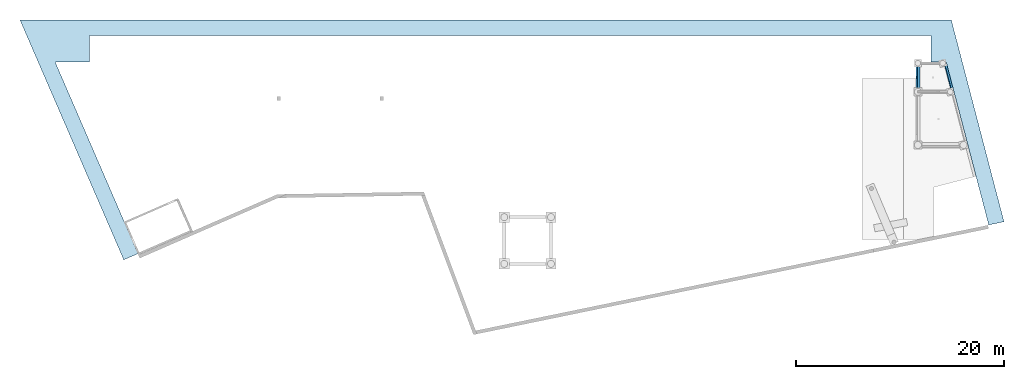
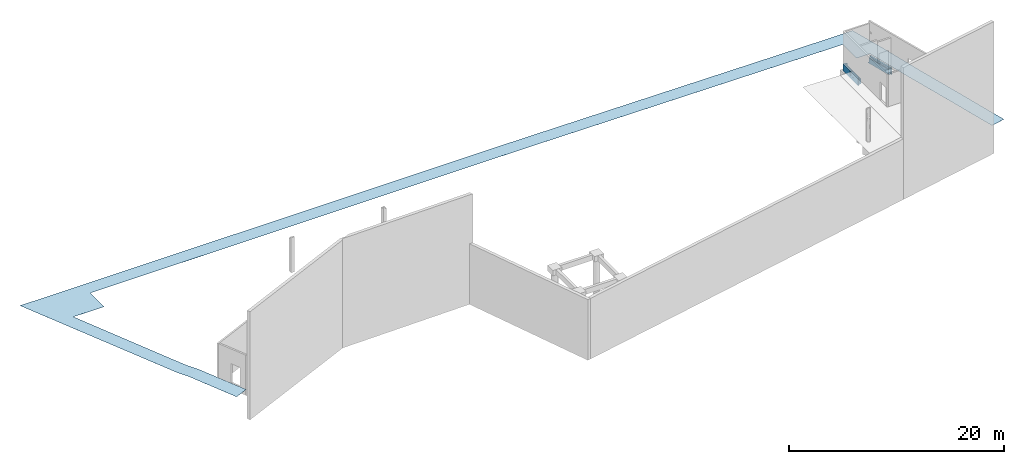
# One storey, part 4 of 5: 2 beams, 1 slab.
"""IFC2X3 building model written with IfcOpenShell, lengths in centimetres."""

from ifc_helpers import new_model, entity, si_unit, converted_unit, derived_unit, direction, frame, origin, place, context, subcontext, project, spatial, faceted_brep, material, material_list, type_object, element, save


model = new_model("IFC2X3")

# Units and contexts
model_context = context("Model", 3, precision=0.001, world=origin(), true_north=direction((6.12303176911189e-17, 1.0)))
body_context = subcontext(model_context, "Body", "Model", "MODEL_VIEW")
ifc_project = project(units=[si_unit("LENGTHUNIT", "METRE", prefix="CENTI"), si_unit("AREAUNIT", "SQUARE_METRE"), si_unit("VOLUMEUNIT", "CUBIC_METRE"), converted_unit("PLANEANGLEUNIT", "DEGREE", entity("IfcRatioMeasure", 0.0174532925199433), si_unit("PLANEANGLEUNIT", "RADIAN"), dimensions=[0, 0, 0, 0, 0, 0, 0]), si_unit("MASSUNIT", "GRAM", prefix="KILO"), derived_unit("MASSDENSITYUNIT", [(si_unit("MASSUNIT", "GRAM", prefix="KILO"), 1), (si_unit("LENGTHUNIT", "METRE"), -3)]), si_unit("TIMEUNIT", "SECOND"), si_unit("FREQUENCYUNIT", "HERTZ"), si_unit("THERMODYNAMICTEMPERATUREUNIT", "DEGREE_CELSIUS"), derived_unit("THERMALTRANSMITTANCEUNIT", [(si_unit("MASSUNIT", "GRAM", prefix="KILO"), 1), (si_unit("THERMODYNAMICTEMPERATUREUNIT", "KELVIN"), -1), (si_unit("TIMEUNIT", "SECOND"), -3)]), derived_unit("VOLUMETRICFLOWRATEUNIT", [(si_unit("LENGTHUNIT", "METRE"), 3), (si_unit("TIMEUNIT", "SECOND"), -1)]), si_unit("ELECTRICCURRENTUNIT", "AMPERE"), si_unit("ELECTRICVOLTAGEUNIT", "VOLT"), si_unit("POWERUNIT", "WATT"), si_unit("FORCEUNIT", "NEWTON"), si_unit("ILLUMINANCEUNIT", "LUX"), si_unit("LUMINOUSFLUXUNIT", "LUMEN"), si_unit("LUMINOUSINTENSITYUNIT", "CANDELA"), derived_unit("USERDEFINED", [(si_unit("MASSUNIT", "GRAM", prefix="KILO"), -1), (si_unit("LENGTHUNIT", "METRE"), -2), (si_unit("TIMEUNIT", "SECOND"), 3), (si_unit("LUMINOUSFLUXUNIT", "LUMEN"), 1)]), derived_unit("LINEARVELOCITYUNIT", [(si_unit("LENGTHUNIT", "METRE"), 1), (si_unit("TIMEUNIT", "SECOND"), -1)]), si_unit("PRESSUREUNIT", "PASCAL"), derived_unit("USERDEFINED", [(si_unit("LENGTHUNIT", "METRE"), -2), (si_unit("MASSUNIT", "GRAM", prefix="KILO"), 1), (si_unit("TIMEUNIT", "SECOND"), -2)])], contexts=[model_context])

# Site, building, storey
site_placement = place(None, origin())
site = spatial("IfcSite", under=ifc_project, at=site_placement, Name="Default", CompositionType="ELEMENT")
building_placement = place(site_placement, origin())
building = spatial("IfcBuilding", under=site, at=building_placement, Name="CAGE 03", CompositionType="ELEMENT")
storey_placement = place(building_placement, frame((0.0, 0.0, -50.0)))
storey = spatial("IfcBuildingStorey", under=building, at=storey_placement, Name="+3.50", CompositionType="ELEMENT", Elevation=-50.0000000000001)

# Beams
ifc_material_1 = material(Name="Béton, C25/30")
ifc_material_2 = material(Name="<Unnamed>")
ifc_material_list = material_list([ifc_material_1, ifc_material_2])
beam_type_1 = type_object("IfcBeamType", Name="40x80ht", PredefinedType="BEAM", material=ifc_material_list)
beam_1_placement = place(storey_placement, frame((11028.3658201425, 4752.66066607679, -85.0), z_axis=(0.0, 0.0, 1.0), x_axis=(0.0, 1.0, 0.0)))
element("IfcBeam", 1, at=beam_1_placement, inside=storey, type_object=beam_type_1, material=ifc_material_1, Name="BBGO-Poutre rect:40x80ht", ObjectType="BBGO-Poutre rect:40x80ht", context=body_context, shape_type="Brep", body=[
    faceted_brep([(284.499999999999, 0.0, 68.0), (284.499999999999, 0.0, 80.0), (284.499999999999, -18.0, 80.0), (284.499999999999, -27.4999999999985, 80.0), (284.499999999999, -27.4999999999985, 68.0), (284.499999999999, -27.4999999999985, 8.0), (284.499999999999, -40.0, 8.0), (284.499999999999, -40.0, 0.0), (284.499999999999, 0.0, 0.0), (266.500000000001, -40.0, 80.0), (266.500000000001, -40.0, 60.0), (275.500000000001, -40.0, 80.0), (275.500000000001, -40.0, 8.0), (102.480863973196, -40.0, 38.0856866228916), (102.214442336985, -40.0, 39.4250786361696), (101.948020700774, -40.0, 40.7644706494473), (101.189316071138, -40.0, 41.8999523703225), (100.430611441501, -40.0, 43.0354340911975), (99.2951297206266, -40.0, 43.7941387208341), (98.1596479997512, -40.0, 44.5528433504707), (96.8202559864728, -40.0, 44.8192649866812), (95.4808639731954, -40.0, 45.0856866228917), (15.0, -40.0, 60.0), (94.1414719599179, -40.0, 44.8192649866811), (92.8020799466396, -40.0, 44.5528433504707), (91.6665982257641, -40.0, 43.7941387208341), (90.5311165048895, -40.0, 43.0354340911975), (89.7724118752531, -40.0, 41.8999523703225), (89.0137072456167, -40.0, 40.7644706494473), (88.8267822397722, -40.0, 39.8247351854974), (88.4808639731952, -40.0, 38.0856866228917), (15.0, -40.0, 0.0), (88.747285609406, -40.0, 36.7462946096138), (89.0137072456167, -40.0, 35.4069025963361), (89.7724118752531, -40.0, 34.2714208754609), (90.5311165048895, -40.0, 33.1359391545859), (91.6665982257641, -40.0, 32.3772345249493), (92.8020799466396, -40.0, 31.6185298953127), (94.141471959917, -40.0, 31.3521082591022), (95.4808639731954, -40.0, 31.0856866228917), (96.8202559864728, -40.0, 31.3521082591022), (98.1596479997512, -40.0, 31.6185298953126), (102.214442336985, -40.0, 36.7462946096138), (99.2951297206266, -40.0, 32.3772345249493), (100.430611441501, -40.0, 33.1359391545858), (101.189316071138, -40.0, 34.2714208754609), (101.948020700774, -40.0, 35.406902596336), (15.0, -9.0, 0.0), (0.0, -9.0, 0.0), (0.0, 0.0, 0.0), (147.0, 0.0, 28.0), (129.0, 0.0, 28.0), (147.0, 0.0, 68.0), (147.0, 0.0, 80.0), (95.4808639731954, 0.0, 31.0856866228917), (94.1414719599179, 0.0, 31.3521082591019), (92.8020799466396, 0.0, 31.6185298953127), (91.6665982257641, 0.0, 32.3772345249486), (90.5311165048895, 0.0, 33.1359391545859), (89.7724118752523, 0.0, 34.2714208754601), (89.0137072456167, 0.0, 35.4069025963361), (88.8267822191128, 0.0, 36.3466381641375), (88.4808639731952, 0.0, 38.0856866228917), (0.0, 0.0, 80.0), (88.7472856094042, 0.0, 39.4250786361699), (89.0137072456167, 0.0, 40.7644706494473), (89.7724118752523, 0.0, 41.8999523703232), (90.5311165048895, 0.0, 43.0354340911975), (91.6665982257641, 0.0, 43.7941387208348), (92.8020799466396, 0.0, 44.5528433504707), (129.0, 0.0, 80.0), (101.948020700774, 0.0, 40.7644706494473), (101.189316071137, 0.0, 41.8999523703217), (100.430611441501, 0.0, 43.0354340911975), (99.2951297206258, 0.0, 43.7941387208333), (94.1414719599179, 0.0, 44.8192649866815), (95.4808639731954, 0.0, 45.0856866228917), (96.8202559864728, 0.0, 44.8192649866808), (98.1596479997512, 0.0, 44.5528433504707), (96.8202559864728, 0.0, 31.3521082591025), (98.1596479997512, 0.0, 31.6185298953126), (99.2951297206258, 0.0, 32.37723452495), (100.430611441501, 0.0, 33.1359391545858), (101.189316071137, 0.0, 34.2714208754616), (101.948020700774, 0.0, 35.406902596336), (102.214442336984, 0.0, 36.7462946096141), (102.480863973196, 0.0, 38.0856866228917), (102.134945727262, 0.0, 39.8247350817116), (147.0, -9.0, 80.0), (129.0, -9.0, 80.0), (0.0, -9.0, 80.0), (15.0, -9.0, 80.0), (15.0, -18.0, 80.0), (266.500000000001, -18.0, 80.0), (275.500000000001, -27.4999999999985, 80.0), (15.0, -18.0, 60.0), (266.500000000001, -18.0, 60.0), (129.0, -9.0, 28.0), (147.0, -9.0, 28.0), (275.500000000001, -27.4999999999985, 8.0)], [[[0, 1, 2, 3, 4, 5, 6, 7, 8]], [[9, 10, 11]], [[10, 12, 11]], [[13, 12, 10]], [[10, 14, 13]], [[10, 15, 14]], [[10, 16, 15]], [[10, 17, 16]], [[10, 18, 17]], [[10, 19, 18]], [[10, 20, 19]], [[10, 21, 20]], [[22, 21, 10]], [[22, 23, 21]], [[22, 24, 23]], [[22, 25, 24]], [[22, 26, 25]], [[22, 27, 26]], [[22, 28, 27]], [[22, 29, 28]], [[22, 30, 29]], [[22, 31, 30]], [[31, 32, 30]], [[31, 33, 32]], [[31, 34, 33]], [[31, 35, 34]], [[31, 36, 35]], [[31, 37, 36]], [[31, 38, 37]], [[31, 39, 38]], [[31, 40, 39]], [[31, 41, 40]], [[31, 7, 41]], [[7, 6, 12]], [[41, 7, 12]], [[12, 13, 42]], [[12, 43, 41]], [[12, 44, 43]], [[12, 45, 44]], [[12, 46, 45]], [[12, 42, 46]], [[31, 47, 48, 49, 8, 7]], [[50, 8, 49]], [[50, 49, 51]], [[0, 8, 50]], [[0, 50, 52]], [[53, 0, 52]], [[0, 53, 1]], [[54, 51, 49]], [[49, 55, 54]], [[49, 56, 55]], [[49, 57, 56]], [[49, 58, 57]], [[49, 59, 58]], [[49, 60, 59]], [[49, 61, 60]], [[49, 62, 61]], [[63, 62, 49]], [[63, 64, 62]], [[63, 65, 64]], [[63, 66, 65]], [[63, 67, 66]], [[63, 68, 67]], [[63, 69, 68]], [[70, 69, 63]], [[71, 70, 51]], [[70, 71, 72]], [[70, 72, 73]], [[70, 73, 74]], [[70, 75, 69]], [[70, 76, 75]], [[70, 77, 76]], [[70, 78, 77]], [[70, 74, 78]], [[51, 54, 79]], [[51, 79, 80]], [[51, 80, 81]], [[51, 81, 82]], [[51, 82, 83]], [[51, 83, 84]], [[51, 84, 85]], [[51, 85, 86]], [[51, 86, 87]], [[51, 87, 71]], [[1, 53, 88, 89, 70, 63, 90, 91, 92, 93, 9, 11, 94, 3, 2]], [[95, 22, 10, 96]], [[92, 95, 96, 93]], [[91, 47, 31, 22, 95, 92]], [[90, 63, 49, 48]], [[48, 47, 91, 90]], [[70, 89, 97, 51]], [[51, 97, 98, 50]], [[9, 93, 96, 10]], [[50, 98, 88, 53, 52]], [[88, 98, 97, 89]], [[44, 45, 46, 84, 83, 82]], [[43, 44, 82, 81, 80, 41]], [[38, 39, 54, 55, 56, 37]], [[40, 41, 80, 79, 54, 39]], [[46, 42, 13, 86, 85, 84]], [[36, 37, 56, 57, 58, 35]], [[32, 33, 60, 61, 62, 30]], [[34, 35, 58, 59, 60, 33]], [[25, 26, 67, 68, 69, 24]], [[20, 21, 76, 77, 78, 19]], [[23, 24, 69, 75, 76, 21]], [[64, 65, 28, 29, 30, 62]], [[66, 67, 26, 27, 28, 65]], [[18, 19, 78, 74, 73, 17]], [[14, 15, 71, 87, 86, 13]], [[16, 17, 73, 72, 71, 15]], [[99, 12, 6, 5]], [[94, 99, 5, 4, 3]], [[11, 12, 99, 94]]]),
])
beam_type_2 = type_object("IfcBeamType", Name="BBGO-Poutre rect:25x80ht", PredefinedType="BEAM")
beam_2_placement = place(storey_placement, frame((11296.6181849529, 4753.07126020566, -85.0), z_axis=(0.0, 0.0, 1.0), x_axis=(0.25267968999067, -0.967549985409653, 0.0)))
element("IfcBeam", 2, at=beam_2_placement, inside=storey, type_object=beam_type_2, material=ifc_material_1, Name="BBGO-Poutre rect:25x80ht", ObjectType="BBGO-Poutre rect:25x80ht", context=body_context, shape_type="Brep", body=[
    faceted_brep([(-268.75869474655, 95.1874473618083, 0.0), (-268.75869474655, 70.1874473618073, 0.0), (-268.75869474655, 70.1874473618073, 8.0), (-268.75869474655, 95.1874473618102, 8.0), (3.2510326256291, 70.1874473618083, 60.0), (-256.683858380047, 70.1874473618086, 60.0), (-256.683858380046, 70.1874473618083, 8.0), (3.25103262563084, 70.1874473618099, 0.0), (-233.597244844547, 95.187447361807, 0.0), (-18.8574338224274, 95.1874473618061, 0.0), (22.535303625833, 95.187447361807, 0.0), (22.535303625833, 86.29119615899, 0.0), (8.41932418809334, 89.9776427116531, 0.0), (-268.758694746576, 95.1874473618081, 80.0), (22.535303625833, 95.187447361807, 80.0), (-251.342795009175, 90.6392129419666, 80.0), (-254.855779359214, 77.1874473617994, 80.0), (5.07911164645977, 77.1874473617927, 80.0), (8.4193241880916, 89.9776427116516, 80.0), (22.535303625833, 86.29119615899, 80.0), (5.07911164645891, 77.1874473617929, 60.0), (-254.855779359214, 77.1874473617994, 60.0), (-251.342795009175, 90.6392129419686, 8.0)], [[[0, 1, 2, 3]], [[4, 5, 6, 2, 1, 7]], [[1, 0, 8, 9, 10, 11, 12, 7]], [[10, 9, 8, 0, 3, 13, 14]], [[14, 13, 15, 16, 17, 18, 19]], [[5, 4, 20, 21]], [[21, 20, 17, 16]], [[10, 14, 19, 11]], [[18, 12, 11, 19]], [[12, 18, 17, 20, 4, 7]], [[6, 22, 3, 2]], [[6, 5, 21, 16, 15, 22]], [[3, 22, 15, 13]]]),
])

# Slab
slab_placement = place(storey_placement, origin())
element("IfcSlab", 3, at=slab_placement, inside=storey, Name="Sol:Enrobé", ObjectType="Sol:Enrobé", PredefinedType="FLOOR", context=body_context, shape_type="Brep", body=[
    faceted_brep([(3077.36582014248, 5037.16066607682, 13.9), (3077.36582014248, 5293.66066607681, 13.9), (3077.36582014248, 5293.66066607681, 14.0), (3077.36582014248, 5037.16066607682, 14.0), (2746.91306854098, 5037.16066607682, 13.9), (2746.91306854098, 5037.16066607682, 14.0), (2884.7767202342, 4718.53687457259, 14.0), (3001.53858009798, 4448.68252184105, 12.8464538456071), (3113.6469418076, 4189.58310855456, 11.7388818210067), (3210.21707592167, 3966.39489397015, 11.9077194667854), (3270.19181273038, 3827.7841883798, 12.0125758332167), (3284.765307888, 3794.10263254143, 15.2690402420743), (3299.33880304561, 3760.42107670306, 18.5255046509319), (3324.85518090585, 3701.44886060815, 24.2271689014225), (3350.40137903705, 3642.40772534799, 24.3278083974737), (3368.67415560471, 3600.17656956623, 24.3997941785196), (3441.66341228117, 3431.4873362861, 25.0667383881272), (3492.73070573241, 3313.46308216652, 25.5333691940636), (3543.79799918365, 3195.43882804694, 26.0), (3543.79799918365, 3195.43882804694, 25.9), (3492.73070573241, 3313.46308216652, 25.4333691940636), (3441.66341228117, 3431.4873362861, 24.9667383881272), (3368.67415560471, 3600.17656956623, 24.2997941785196), (3350.40137903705, 3642.40772534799, 24.2278083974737), (3324.85518090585, 3701.44886060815, 24.1271689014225), (3299.33880304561, 3760.42107670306, 18.4255046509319), (3284.765307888, 3794.10263254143, 15.1690402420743), (3270.19181273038, 3827.7841883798, 11.9125758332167), (3210.21707592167, 3966.39489397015, 11.8077194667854), (3113.6469418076, 4189.58310855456, 11.6388818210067), (3001.53858009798, 4448.68252184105, 12.7464538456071), (2884.7767202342, 4718.53687457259, 13.9), (3471.53824818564, 3164.17313663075, 26.0), (3406.1321007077, 3135.87289485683, 26.0), (3406.1321007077, 3135.87289485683, 25.9), (3471.53824818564, 3164.17313663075, 25.9), (3132.52591425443, 3768.21825518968, 13.9874241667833), (3072.55117228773, 3906.82897270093, 14.0922805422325), (2975.98104333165, 4130.01717536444, 14.2611181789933), (2863.87267623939, 4389.11660109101, 14.1332136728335), (2747.11082175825, 4658.97094138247, 14.0), (2407.58755395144, 5443.66066607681, 14.0), (2407.58755395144, 5443.66066607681, 13.9), (2747.11082175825, 4658.97094138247, 13.9), (2863.87267623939, 4389.11660109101, 14.0332136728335), (2975.98104333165, 4130.01717536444, 14.1611181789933), (3072.55117228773, 3906.82897270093, 13.9922805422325), (3132.52591425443, 3768.21825518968, 13.8874241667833), (3159.86103448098, 3705.04264986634, 19.7801276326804), (3172.62082734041, 3675.55283489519, 22.5307896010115), (3187.19615470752, 3641.86704454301, 25.6728310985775), (3212.73834318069, 3582.83517621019, 25.5721916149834), (3231.00825712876, 3540.61063637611, 25.5002058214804), (3282.0755507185, 3422.58638193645, 25.6167884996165), (3318.57017891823, 3338.24176561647, 25.7001029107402), (3318.57017891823, 3338.24176561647, 25.8001029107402), (3282.0755507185, 3422.58638193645, 25.7167884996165), (3231.00825712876, 3540.61063637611, 25.6002058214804), (3212.73834318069, 3582.83517621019, 25.6721916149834), (3187.19615470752, 3641.86704454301, 25.7728310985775), (3172.62082734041, 3675.55283489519, 22.6307896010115), (3159.86103448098, 3705.04264986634, 19.8801276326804), (3077.36582014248, 5443.66066607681, 13.9), (3077.36582014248, 5443.66066607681, 14.0), (5726.43452293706, 5443.6606660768, 19.0539592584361), (7322.36582014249, 5443.6606660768, 22.0987167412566), (7549.95719482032, 5443.6606660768, 22.1126141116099), (7824.36582014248, 5443.6606660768, 22.1293702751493), (9236.37777983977, 5443.66066607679, 15.2756646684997), (10191.8717999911, 5443.66066607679, 10.6378323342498), (11147.3658201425, 5443.66066607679, 6.0), (11369.6785244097, 5443.66066607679, 6.0), (11369.6785244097, 5443.66066607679, 5.90000000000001), (11147.3658201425, 5443.66066607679, 5.90000000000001), (10191.8717999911, 5443.66066607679, 10.5378323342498), (9236.37777983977, 5443.66066607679, 15.1756646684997), (7824.36582014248, 5443.6606660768, 22.0293702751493), (7549.95719482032, 5443.6606660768, 22.0126141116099), (7322.36582014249, 5443.6606660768, 21.9987167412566), (5726.43452293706, 5443.6606660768, 18.9539592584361), (11626.2005851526, 4461.39764312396, -2.09592639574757), (11598.0267814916, 4569.27953629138, -2.09766304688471), (11465.9394323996, 5075.06261957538, 5.90000000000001), (11465.939459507, 5075.06251577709, 6.00700590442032), (11598.0267905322, 4569.27950167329, -1.99712369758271), (11626.2005851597, 4461.39764309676, -2.00047648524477), (11747.4868363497, 3996.9736501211, -1.99915933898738), (11772.6515899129, 3900.61387959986, -2.75540899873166), (11814.3206143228, 3741.05667909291, -4.00388264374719), (11876.7193834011, 3502.12204958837, -3.99623863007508), (11876.7193834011, 3502.12204958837, -4.09623863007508), (11814.3206143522, 3741.05667898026, -4.1076440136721), (11772.6515899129, 3900.61387959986, -2.85540899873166), (11747.4868363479, 3996.9736501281, -2.09784219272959), (11729.6069475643, 3471.80158792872, -4.09623863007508), (11729.6069475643, 3471.80158792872, -3.99623863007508), (11669.1881165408, 3703.15472548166, -3.9923559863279), (11627.519090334, 3862.71193286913, -2.75070084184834), (11602.3543385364, 3959.0716966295, -1.99952351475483), (11481.0680873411, 4423.49568962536, -2.00287630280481), (11452.8943020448, 4531.37751247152, -2.00700755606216), (11320.8069345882, 5037.16066607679, 6.0), (11320.8069255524, 5037.16070067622, 5.89766469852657), (11452.894311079, 4531.37747787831, -2.10407360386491), (11481.0680873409, 4423.49568962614, -2.10215780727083), (11602.3543385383, 3959.07169662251, -2.10084066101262), (11627.519090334, 3862.71193286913, -2.85070084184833), (11669.1881166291, 3703.15472514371, -4.10364009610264), (11176.3658201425, 5037.16066607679, 5.90000000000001), (11176.3658201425, 5037.16066607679, 6.0), (11176.3658201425, 5275.66066607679, 5.90000000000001), (11176.3658201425, 5275.66066607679, 6.0), (11176.3658201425, 5293.66066607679, 6.0), (11176.3658201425, 5293.66066607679, 5.90000000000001), (11147.3658201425, 5293.66066607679, 5.90000000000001), (11147.3658201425, 5293.66066607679, 6.0), (9485.86582014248, 5293.66066607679, 13.9353148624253), (8530.37179134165, 5293.6606660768, 18.4987490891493), (7824.36582014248, 5293.6606660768, 21.8706297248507), (7549.95718219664, 5293.6606660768, 21.8873858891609), (7322.36582014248, 5293.6606660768, 21.9012832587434), (5726.43468392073, 5293.6606660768, 18.9307522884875), (5726.43468392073, 5293.66066607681, 18.8307522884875), (7322.36582014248, 5293.6606660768, 21.8012832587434), (7549.95718219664, 5293.6606660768, 21.7873858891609), (7824.36582014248, 5293.6606660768, 21.7706297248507), (8530.37179134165, 5293.6606660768, 18.3987490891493), (9485.86582014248, 5293.66066607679, 13.8353148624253), (11147.3658201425, 5386.29635072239, 6.0), (11147.3658201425, 5386.29635072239, 5.9), (3356.25820889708, 3460.36969909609, 25.2331637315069), (3296.41440246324, 3568.91087722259, 25.0298808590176), (3275.59624941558, 3559.90318012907, 25.2114098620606), (3402.23149824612, 3344.36563228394, 25.547839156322), (3299.84120636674, 3570.39360297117, 25.0), (3356.25820889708, 3460.36969909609, 25.1331637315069), (3275.59624941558, 3559.90318012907, 25.1114098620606), (3296.41440246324, 3568.91087722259, 24.9298808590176), (3402.23149824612, 3344.36563228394, 25.447839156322), (3299.84120636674, 3570.39360297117, 24.9), (3074.62889180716, 4172.7005938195, 12.4537483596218), (3070.34102274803, 4170.8452983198, 12.5323082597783), (3201.35886349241, 3798.00122178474, 13.0), (3117.62708974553, 3996.83293505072, 12.9679979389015), (3179.70590336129, 3788.63231640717, 13.3106165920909), (3198.59012250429, 3796.80322981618, 13.0397182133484), (3044.81399256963, 4159.8001419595, 13.0), (3023.16103303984, 4150.43123684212, 13.3967132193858), (3080.16812115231, 3983.05071609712, 13.5730369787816), (3070.34102274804, 4170.8452983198, 12.4323082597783), (3074.62889180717, 4172.7005938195, 12.3537483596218), (3201.35886349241, 3798.00122178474, 12.9), (3117.62708974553, 3996.83293505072, 12.8679979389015), (3198.59012250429, 3796.80322981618, 12.9397182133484), (3179.70590336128, 3788.63231640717, 13.2106165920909), (3023.16103303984, 4150.43123684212, 13.2967132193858), (3044.81399256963, 4159.8001419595, 12.9), (3080.1681211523, 3983.05071609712, 13.4730369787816), (3224.94902286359, 3748.22371183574, 17.7762384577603), (3246.44299204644, 3712.53774299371, 21.3148465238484), (3258.79427523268, 3672.85626599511, 24.9689135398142), (3235.68364886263, 3662.85348501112, 25.2284041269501), (3280.26941488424, 3682.15117280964, 24.7277865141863), (3278.03707793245, 3626.13934453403, 24.9803355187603), (3240.91681559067, 3612.47737536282, 25.3473906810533), (3224.94902286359, 3748.22371183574, 17.6762384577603), (3246.44299204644, 3712.53774299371, 21.2148465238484), (3258.79427523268, 3672.85626599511, 24.8689135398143), (3235.68364886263, 3662.85348501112, 25.1284041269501), (3280.26941488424, 3682.15117280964, 24.6277865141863), (3240.91681559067, 3612.47737536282, 25.2473906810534), (3278.03707793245, 3626.13934453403, 24.8803355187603), (2947.7938082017, 4464.63390359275, 13.3112824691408), (2914.70489626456, 4432.22434230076, 13.6134353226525), (2825.14692279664, 4692.73597130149, 14.0), (2786.12887227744, 4675.85345634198, 14.0), (2914.70489626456, 4432.22434230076, 13.5134353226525), (2947.7938082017, 4464.63390359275, 13.2112824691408), (2825.14692279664, 4692.73597130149, 13.9), (2786.12887227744, 4675.85345634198, 13.9), (3077.36582014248, 5368.66066607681, 14.0), (3077.36582014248, 5412.33104099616, 14.0), (3077.36582014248, 5412.33104099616, 13.9), (3077.36582014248, 5368.66066607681, 13.9), (7322.36582014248, 5337.33104076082, 21.9587632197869), (5318.0357116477, 5359.16622968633, 18.2161031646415), (7322.36582014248, 5381.00141544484, 22.0162431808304), (5429.68001604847, 5401.58584883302, 18.457115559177), (7322.36582014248, 5339.21322646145, 21.9612405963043), (7322.36582014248, 5368.6606660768, 22.0), (7322.36582014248, 5337.33104076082, 21.8587632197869), (5318.0357116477, 5359.16622968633, 18.1161031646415), (5429.68001604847, 5401.58584883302, 18.357115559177), (7322.36582014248, 5381.00141544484, 21.9162431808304), (7322.36582014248, 5368.6606660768, 21.9), (7322.36582014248, 5339.21322646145, 21.8612405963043), (7601.83327203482, 5334.06388061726, 21.9465909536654), (7590.50727339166, 5375.33182864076, 22.0102371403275), (7824.36582014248, 5352.55554409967, 21.9722196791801), (7824.36582014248, 5386.29634826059, 22.0304204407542), (7824.36582014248, 5398.10810508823, 22.0507949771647), (7590.50727339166, 5375.33182864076, 21.9102371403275), (7601.83327203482, 5334.06388061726, 21.8465909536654), (7824.36582014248, 5352.55554409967, 21.8722196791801), (7824.36582014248, 5398.10810508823, 21.9507949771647), (7824.36582014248, 5386.29634826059, 21.9304204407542), (9714.12471724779, 5372.53684236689, 12.903834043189), (8766.20011175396, 5376.65551460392, 17.4750192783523), (9714.12471724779, 5372.53684236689, 12.8038340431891), (8766.20011175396, 5376.65551460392, 17.3750192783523), (11741.7543654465, 3722.10570223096, -4.0), (11699.5472089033, 3711.08312831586, -4.0955539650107), (11663.0725226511, 3974.92850213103, -2.00013725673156), (11705.2796795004, 3985.95107612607, -2.09964829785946), (11705.2796795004, 3985.95107612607, -1.99964829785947), (11672.9052822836, 3855.58966354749, -2.89058728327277), (11715.744075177, 3859.56110729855, -2.94507502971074), (11699.5472089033, 3711.08312831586, -3.9955539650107), (11715.744075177, 3859.56110729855, -3.04507502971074), (11672.9052822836, 3855.58966354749, -2.99058728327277), (11663.0725226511, 3974.92850213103, -2.10013725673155), (11741.7543654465, 3722.10570223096, -4.1)], [[[0, 1, 2, 3]], [[4, 0, 3, 5]], [[4, 5, 6, 7, 8, 9, 10, 11, 12, 13, 14, 15, 16, 17, 18, 19, 20, 21, 22, 23, 24, 25, 26, 27, 28, 29, 30, 31]], [[18, 32, 33, 34, 35, 19]], [[36, 37, 38, 39, 40, 41, 42, 43, 44, 45, 46, 47, 48, 49, 50, 51, 52, 53, 54, 34, 33, 55, 56, 57, 58, 59, 60, 61]], [[62, 42, 41, 63, 64, 65, 66, 67, 68, 69, 70, 71, 72, 73, 74, 75, 76, 77, 78, 79]], [[80, 81, 82, 72, 71, 83, 84, 85, 86, 87, 88, 89, 90, 91, 92, 93]], [[94, 90, 89, 95]], [[96, 97, 98, 99, 100, 101, 102, 103, 104, 105, 106, 107, 94, 95]], [[108, 102, 109]], [[101, 109, 102]], [[110, 108, 109, 111, 112, 113]], [[114, 113, 112, 115, 116, 117, 118, 119, 120, 121, 2, 1, 122, 123, 124, 125, 126, 127]], [[112, 111, 71, 70, 128, 115]], [[109, 101, 111]], [[83, 71, 111]], [[111, 101, 83]], [[113, 114, 129, 73, 72, 82, 110]], [[82, 102, 110]], [[110, 102, 108]], [[130, 56, 55]], [[32, 18, 17]], [[56, 131, 132, 57]], [[130, 55, 133]], [[32, 17, 133]], [[133, 33, 32]], [[16, 133, 17]], [[130, 15, 134, 131]], [[133, 55, 33]], [[130, 133, 16]], [[15, 130, 16]], [[56, 130, 131]], [[54, 53, 135]], [[20, 19, 35]], [[53, 52, 136, 137]], [[138, 54, 135]], [[138, 20, 35]], [[35, 34, 138]], [[20, 138, 21]], [[135, 137, 139, 22]], [[34, 54, 138]], [[21, 138, 135]], [[21, 135, 22]], [[137, 135, 53]], [[9, 8, 140, 141]], [[10, 9, 142]], [[143, 144, 145, 142]], [[9, 141, 143]], [[143, 141, 146, 147]], [[148, 144, 143]], [[38, 37, 148]], [[37, 36, 144]], [[9, 143, 142]], [[148, 143, 147]], [[38, 148, 147]], [[144, 148, 37]], [[28, 149, 150, 29]], [[151, 28, 27]], [[152, 151, 153, 154]], [[152, 149, 28]], [[152, 155, 156, 149]], [[152, 154, 157]], [[157, 46, 45]], [[154, 47, 46]], [[151, 152, 28]], [[155, 152, 157]], [[155, 157, 45]], [[46, 157, 154]], [[158, 36, 61]], [[159, 158, 61]], [[158, 145, 144, 36]], [[12, 158, 159]], [[60, 160, 159]], [[11, 158, 12]], [[11, 10, 142, 145]], [[145, 158, 11]], [[60, 159, 61]], [[60, 59, 161, 160]], [[13, 12, 159]], [[159, 160, 162, 13]], [[163, 164, 132]], [[14, 13, 162]], [[59, 58, 164]], [[163, 132, 131, 134]], [[14, 162, 163]], [[14, 134, 15]], [[163, 162, 160, 161]], [[58, 57, 132]], [[14, 163, 134]], [[164, 163, 161]], [[59, 164, 161]], [[132, 164, 58]], [[48, 47, 165]], [[48, 165, 166]], [[165, 47, 154, 153]], [[166, 165, 25]], [[166, 167, 49]], [[25, 165, 26]], [[26, 153, 151, 27]], [[26, 165, 153]], [[48, 166, 49]], [[49, 167, 168, 50]], [[166, 25, 24]], [[166, 24, 169, 167]], [[136, 170, 171]], [[169, 24, 23]], [[170, 51, 50]], [[171, 139, 137, 136]], [[171, 169, 23]], [[22, 139, 23]], [[171, 168, 167, 169]], [[136, 52, 51]], [[139, 171, 23]], [[168, 171, 170]], [[168, 170, 50]], [[51, 170, 136]], [[172, 173, 146]], [[140, 7, 172]], [[173, 38, 147, 146]], [[174, 173, 172]], [[174, 175, 173]], [[39, 173, 175]], [[38, 173, 39]], [[175, 40, 39]], [[172, 146, 141, 140]], [[7, 140, 8]], [[6, 174, 172]], [[6, 172, 7]], [[156, 176, 177]], [[177, 30, 150]], [[176, 156, 155, 45]], [[177, 176, 178]], [[176, 179, 178]], [[179, 176, 44]], [[44, 176, 45]], [[44, 43, 179]], [[177, 150, 149, 156]], [[29, 150, 30]], [[177, 178, 31]], [[30, 177, 31]], [[41, 40, 175, 174, 6, 5, 3, 2, 180, 181, 63]], [[4, 31, 178, 179, 43, 42, 62, 182, 183, 1, 0]], [[121, 120, 184]], [[185, 2, 121]], [[185, 186, 187]], [[185, 184, 188, 189, 186]], [[65, 64, 187]], [[185, 187, 180]], [[121, 184, 185]], [[64, 63, 181]], [[185, 180, 2]], [[186, 65, 187]], [[64, 181, 187]], [[180, 187, 181]], [[190, 123, 122]], [[122, 1, 191]], [[192, 193, 191]], [[191, 193, 194, 195, 190]], [[192, 79, 78]], [[183, 192, 191]], [[191, 190, 122]], [[182, 62, 79]], [[1, 183, 191]], [[192, 78, 193]], [[192, 182, 79]], [[182, 192, 183]], [[188, 196, 197]], [[188, 119, 196]], [[197, 65, 186, 189, 188]], [[198, 197, 196]], [[197, 198, 199, 200]], [[65, 197, 66]], [[200, 67, 66]], [[66, 197, 200]], [[119, 188, 184, 120]], [[118, 198, 196]], [[118, 196, 119]], [[201, 202, 195]], [[202, 124, 195]], [[201, 195, 194, 193, 78]], [[202, 201, 203]], [[201, 204, 205, 203]], [[77, 201, 78]], [[77, 76, 204]], [[204, 201, 77]], [[124, 123, 190, 195]], [[202, 203, 125]], [[124, 202, 125]], [[128, 70, 69]], [[206, 115, 128]], [[206, 68, 207]], [[68, 206, 69]], [[207, 67, 200, 199]], [[206, 207, 116]], [[128, 69, 206]], [[117, 199, 198, 118]], [[206, 116, 115]], [[68, 67, 207]], [[199, 117, 207]], [[116, 207, 117]], [[74, 73, 129]], [[129, 114, 208]], [[209, 75, 208]], [[74, 208, 75]], [[209, 205, 204, 76]], [[127, 209, 208]], [[208, 74, 129]], [[126, 125, 203, 205]], [[114, 127, 208]], [[209, 76, 75]], [[209, 126, 205]], [[126, 209, 127]], [[83, 101, 84]], [[100, 84, 101]], [[95, 88, 210]], [[89, 88, 95]], [[81, 102, 82]], [[102, 81, 103]], [[94, 107, 211]], [[94, 91, 90]], [[84, 100, 85]], [[99, 85, 100]], [[80, 103, 81]], [[103, 80, 104]], [[85, 99, 98]], [[85, 98, 212]], [[105, 104, 80]], [[80, 93, 213]], [[87, 86, 214]], [[212, 215, 216]], [[98, 97, 215]], [[216, 214, 212]], [[216, 88, 87]], [[210, 216, 215]], [[87, 214, 216]], [[97, 96, 217]], [[216, 210, 88]], [[212, 98, 215]], [[97, 217, 215]], [[210, 215, 217]], [[213, 93, 92]], [[218, 219, 220]], [[219, 106, 105]], [[220, 213, 218]], [[92, 91, 218]], [[219, 218, 221]], [[218, 213, 92]], [[211, 107, 106]], [[91, 221, 218]], [[219, 105, 220]], [[219, 211, 106]], [[211, 219, 221]], [[95, 210, 217, 96]], [[94, 211, 221, 91]], [[85, 212, 214, 86]], [[80, 213, 220, 105]]]),
])

save(model, "model.ifc")
